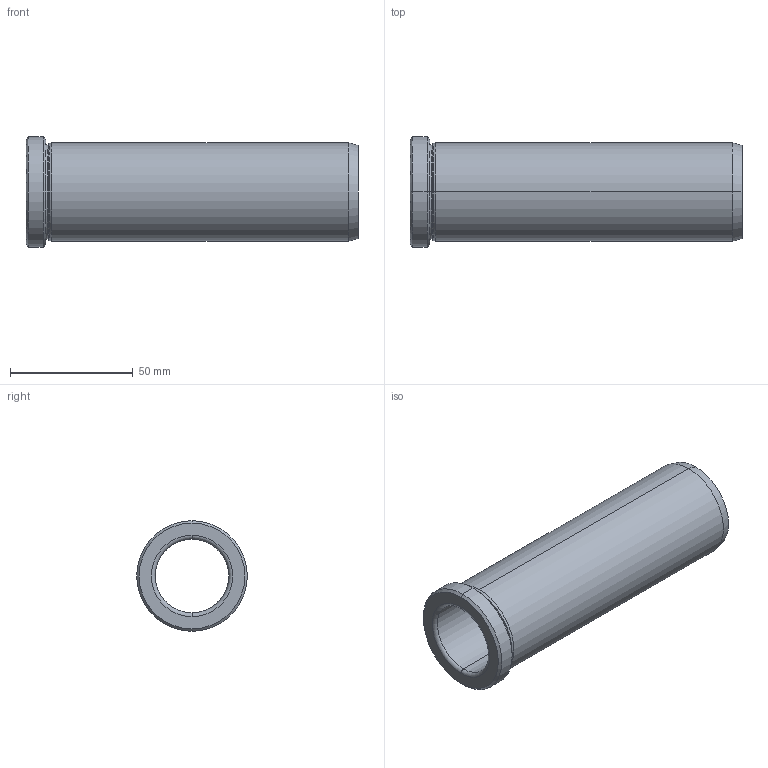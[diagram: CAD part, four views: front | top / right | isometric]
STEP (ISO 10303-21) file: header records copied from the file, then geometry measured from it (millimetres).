
FILE_DESCRIPTION (( 'STEP AP214' ), '1' );
FILE_NAME ('BRCVBG-30X135.STEP', '2020-07-21T12:37:01', ( '' ), ( '' ), 'SwSTEP 2.0', 'SolidWorks 2018', '' );
FILE_SCHEMA (( 'AUTOMOTIVE_DESIGN' ));
Length unit declared in the file: millimetre
Products named in the file (1): BRCVBG-30X135
Bounding box: 135 x 45 x 45 mm (x, y, z)
Volume: 76658 mm3; surface area: 31354.6 mm2
Topology: 1 solids, 1 shells, 32 faces, 64 edges, 36 vertices
Faces by surface type: torus 10, cylinder 10, cone 8, plane 4
Entity records: 872 total; most frequent: DIRECTION 176, CARTESIAN_POINT 133, ORIENTED_EDGE 128, AXIS2_PLACEMENT_3D 79, EDGE_CURVE 64, CIRCLE 46, VERTEX_POINT 36, EDGE_LOOP 36
